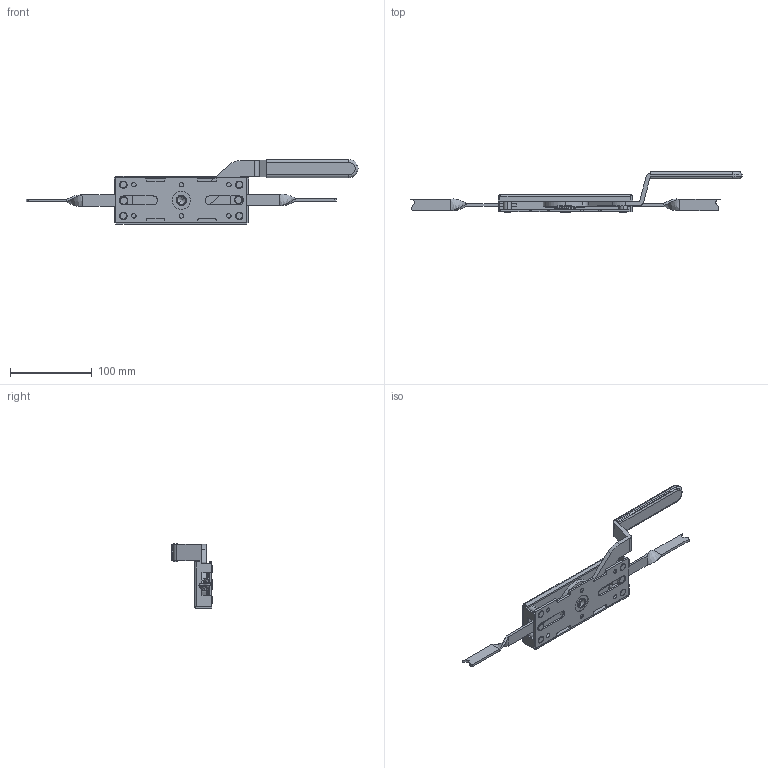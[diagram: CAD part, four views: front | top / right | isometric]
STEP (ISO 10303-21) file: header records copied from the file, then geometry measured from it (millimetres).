
FILE_DESCRIPTION (( 'STEP AP214' ), '1' );
FILE_NAME ('2.530.002.STEP', '2016-08-18T11:32:08', ( 'RST-Dolba' ), ( '' ), 'SwSTEP 2.0', 'SolidWorks 2015', '' );
FILE_SCHEMA (( 'AUTOMOTIVE_DESIGN' ));
Length unit declared in the file: millimetre
Products named in the file (16): 2.530.002.02_A; DIN 137 B_12; 2.530.001.05_A; 2.530.001.01_A; 2.530.001.01.01_A; 2.530.002; DIN 965_M5x12; Moss Plastic Polska RRWA-91688-110; 2.530.001.10_A; 2.530.001.04_A; 2.530.001.03_A; 2.530.001.03.03_A; 2.530.001.03.02_A; 2.530.001.03.01_A; 2.530.001.01.02_B
Assembly tree (23 placements, depth 4):
  2.530.002
    2.530.001.01.02_B
      2.530.001.01_A
        2.530.001.01.01_A  x4
        2.530.001.01_A
      2.530.001.05_A
      DIN 137 B_12
      2.530.002.02_A
    2.530.001.03_A  x2
      2.530.001.03.01_A
      2.530.001.03.02_A
      2.530.001.03.03_A
    2.530.001.04_A
    2.530.001.10_A  x2
    Moss Plastic Polska RRWA-91688-110
    DIN 965_M5x12  x4
Bounding box: 405.31 x 49.8 x 79.25 mm (x, y, z)
Volume: 116578 mm3; surface area: 98267.3 mm2
Topology: 22 solids, 22 shells, 517 faces, 1191 edges, 731 vertices
Faces by surface type: plane 197, cylinder 182, cone 92, bspline 46
Entity records: 13919 total; most frequent: CARTESIAN_POINT 2336, DIRECTION 1649, ORIENTED_EDGE 1502, EDGE_CURVE 751, AXIS2_PLACEMENT_3D 611, VERTEX_POINT 472, LINE 427, VECTOR 427
